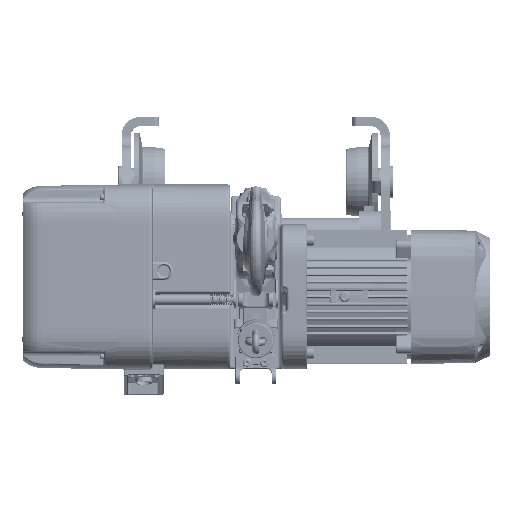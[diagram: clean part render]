
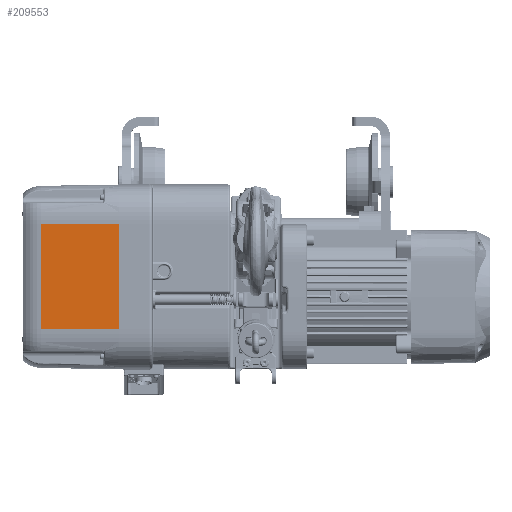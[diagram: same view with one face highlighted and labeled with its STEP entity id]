
A CAD part, front view. The second image highlights one B-rep face of the part: STEP entity #209553.
In plain terms, the highlighted planar face has unit normal (-0.018, -1, 0) as drawn and (0, -1, 0.017) by its records, which use the part's own axes.
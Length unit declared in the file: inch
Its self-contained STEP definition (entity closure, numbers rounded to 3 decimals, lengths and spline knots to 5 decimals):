
#7287 = CARTESIAN_POINT ( 'NONE',  ( -3.53868, -5.12571, 5.20322 ) ) ;
#7312 = CARTESIAN_POINT ( 'NONE',  ( 3.53868, -5.12571, 5.20322 ) ) ;
#9669 = CARTESIAN_POINT ( 'NONE',  ( 3.53868, -5.21654, 0. ) ) ;
#16683 = VECTOR ( 'NONE', #65765, 39.37008 ) ;
#25576 = CARTESIAN_POINT ( 'NONE',  ( 0., -5.21654, 0. ) ) ;
#28916 = DIRECTION ( 'NONE',  ( -1., 0., 0. ) ) ;
#60859 = CARTESIAN_POINT ( 'NONE',  ( -3.53868, -5.21654, 0. ) ) ;
#64171 = EDGE_LOOP ( 'NONE', ( #126962, #133158, #225467, #192958 ) ) ;
#65765 = DIRECTION ( 'NONE',  ( 0., -0.017, -1. ) ) ;
#67734 = VECTOR ( 'NONE', #199755, 39.37008 ) ;
#74672 = DIRECTION ( 'NONE',  ( 0., -0.017, -1. ) ) ;
#76917 = LINE ( 'NONE', #60859, #204827 ) ;
#77124 = EDGE_CURVE ( 'NONE', #140109, #134171, #180373, .T. ) ;
#97441 = PLANE ( 'NONE',  #182137 ) ;
#98402 = VERTEX_POINT ( 'NONE', #215911 ) ;
#108781 = EDGE_CURVE ( 'NONE', #98402, #199865, #133865, .T. ) ;
#116051 = LINE ( 'NONE', #203825, #16683 ) ;
#126962 = ORIENTED_EDGE ( 'NONE', *, *, #108781, .T. ) ;
#133158 = ORIENTED_EDGE ( 'NONE', *, *, #172962, .T. ) ;
#133865 = LINE ( 'NONE', #7312, #149402 ) ;
#134171 = VERTEX_POINT ( 'NONE', #149498 ) ;
#140109 = VERTEX_POINT ( 'NONE', #9669 ) ;
#148776 = FACE_OUTER_BOUND ( 'NONE', #64171, .T. ) ;
#149402 = VECTOR ( 'NONE', #28916, 39.37008 ) ;
#149498 = CARTESIAN_POINT ( 'NONE',  ( -3.53868, -5.21654, 0. ) ) ;
#152959 = DIRECTION ( 'NONE',  ( 0., -1., 0.017 ) ) ;
#162447 = EDGE_CURVE ( 'NONE', #98402, #140109, #116051, .T. ) ;
#164388 = CARTESIAN_POINT ( 'NONE',  ( 0., -5.21654, 0. ) ) ;
#171178 = DIRECTION ( 'NONE',  ( 0., -0.017, -1. ) ) ;
#172962 = EDGE_CURVE ( 'NONE', #199865, #134171, #76917, .T. ) ;
#180373 = LINE ( 'NONE', #164388, #67734 ) ;
#182137 = AXIS2_PLACEMENT_3D ( 'NONE', #25576, #152959, #171178 ) ;
#192958 = ORIENTED_EDGE ( 'NONE', *, *, #162447, .F. ) ;
#199755 = DIRECTION ( 'NONE',  ( -1., 0., 0. ) ) ;
#199865 = VERTEX_POINT ( 'NONE', #7287 ) ;
#203825 = CARTESIAN_POINT ( 'NONE',  ( 3.53868, -5.21654, 0. ) ) ;
#204827 = VECTOR ( 'NONE', #74672, 39.37008 ) ;
#209553 = ADVANCED_FACE ( 'NONE', ( #148776 ), #97441, .T. ) ;
#215911 = CARTESIAN_POINT ( 'NONE',  ( 3.53868, -5.12571, 5.20322 ) ) ;
#225467 = ORIENTED_EDGE ( 'NONE', *, *, #77124, .F. ) ;
